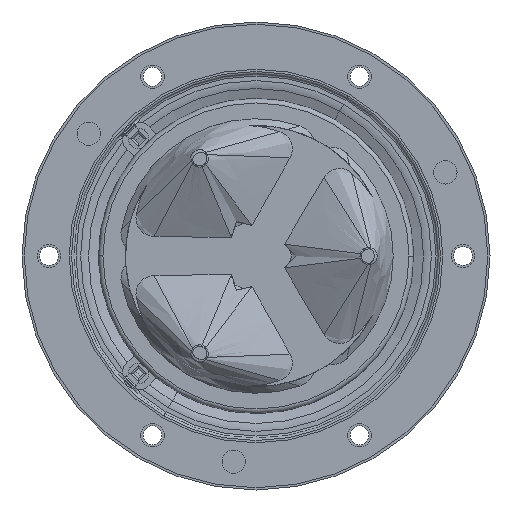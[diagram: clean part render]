
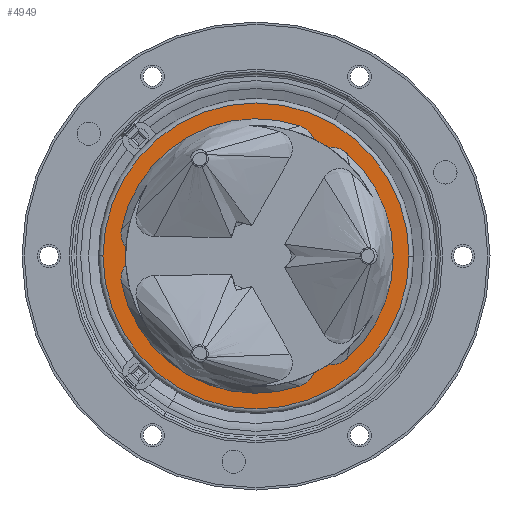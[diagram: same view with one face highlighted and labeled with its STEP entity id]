
A CAD part, front view. The second image highlights one B-rep face of the part: STEP entity #4949.
In plain terms, the highlighted planar face has unit normal (0, -1, 0).
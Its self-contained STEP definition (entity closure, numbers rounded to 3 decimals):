
#6 = VERTEX_POINT ( 'NONE', #21398 ) ;
#58 = AXIS2_PLACEMENT_3D ( 'NONE', #20533, #3980, #16532 ) ;
#72 = ORIENTED_EDGE ( 'NONE', *, *, #5349, .T. ) ;
#1266 = DIRECTION ( 'NONE',  ( 0., 1., 0. ) ) ;
#1338 = DIRECTION ( 'NONE',  ( 0., 0., 1. ) ) ;
#1423 = CARTESIAN_POINT ( 'NONE',  ( 0., -2., 0. ) ) ;
#1545 = CIRCLE ( 'NONE', #2285, 5. ) ;
#1559 = CIRCLE ( 'NONE', #12674, 34. ) ;
#1608 = EDGE_CURVE ( 'NONE', #18646, #15388, #16118, .T. ) ;
#1723 = AXIS2_PLACEMENT_3D ( 'NONE', #4031, #5792, #2302 ) ;
#1738 = CARTESIAN_POINT ( 'NONE',  ( 16.124, -2., 24.104 ) ) ;
#1854 = ORIENTED_EDGE ( 'NONE', *, *, #19162, .T. ) ;
#1913 = ORIENTED_EDGE ( 'NONE', *, *, #5953, .T. ) ;
#2219 = AXIS2_PLACEMENT_3D ( 'NONE', #22016, #13430, #16998 ) ;
#2285 = AXIS2_PLACEMENT_3D ( 'NONE', #18452, #19946, #9304 ) ;
#2302 = DIRECTION ( 'NONE',  ( -0.5, 0., 0.866 ) ) ;
#3135 = ORIENTED_EDGE ( 'NONE', *, *, #13721, .T. ) ;
#3187 = DIRECTION ( 'NONE',  ( 1., 0., 0. ) ) ;
#3816 = AXIS2_PLACEMENT_3D ( 'NONE', #11174, #20075, #20310 ) ;
#3980 = DIRECTION ( 'NONE',  ( 0., 1., 0. ) ) ;
#4031 = CARTESIAN_POINT ( 'NONE',  ( 0., -2., 0. ) ) ;
#4100 = AXIS2_PLACEMENT_3D ( 'NONE', #8011, #20401, #20867 ) ;
#4474 = VERTEX_POINT ( 'NONE', #8824 ) ;
#4540 = DIRECTION ( 'NONE',  ( 1., 0., 0. ) ) ;
#4943 = CIRCLE ( 'NONE', #3816, 34. ) ;
#4949 = ADVANCED_FACE ( 'NONE', ( #10234, #17311 ), #20318, .F. ) ;
#5035 = DIRECTION ( 'NONE',  ( 1., 0., 0. ) ) ;
#5180 = CARTESIAN_POINT ( 'NONE',  ( 0., -2., 0. ) ) ;
#5349 = EDGE_CURVE ( 'NONE', #7021, #7378, #7078, .T. ) ;
#5622 = DIRECTION ( 'NONE',  ( 0., 1., 0. ) ) ;
#5792 = DIRECTION ( 'NONE',  ( 0., 1., 0. ) ) ;
#5827 = CIRCLE ( 'NONE', #13615, 29. ) ;
#5912 = CARTESIAN_POINT ( 'NONE',  ( 16.833, -2., -19.155 ) ) ;
#5953 = EDGE_CURVE ( 'NONE', #14503, #17098, #1545, .T. ) ;
#6295 = EDGE_CURVE ( 'NONE', #22835, #9927, #1559, .T. ) ;
#6444 = CARTESIAN_POINT ( 'NONE',  ( 0., -2., 0. ) ) ;
#6557 = AXIS2_PLACEMENT_3D ( 'NONE', #5912, #7415, #9275 ) ;
#6914 = ORIENTED_EDGE ( 'NONE', *, *, #6295, .T. ) ;
#7021 = VERTEX_POINT ( 'NONE', #18891 ) ;
#7078 = CIRCLE ( 'NONE', #4100, 5. ) ;
#7378 = VERTEX_POINT ( 'NONE', #12290 ) ;
#7415 = DIRECTION ( 'NONE',  ( 0., 1., 0. ) ) ;
#7523 = AXIS2_PLACEMENT_3D ( 'NONE', #21068, #5622, #22957 ) ;
#7760 = CIRCLE ( 'NONE', #16662, 5. ) ;
#7762 = VERTEX_POINT ( 'NONE', #9795 ) ;
#8011 = CARTESIAN_POINT ( 'NONE',  ( -25.005, -2., 5. ) ) ;
#8142 = CARTESIAN_POINT ( 'NONE',  ( 20.133, -2., -22.911 ) ) ;
#8193 = ORIENTED_EDGE ( 'NONE', *, *, #19205, .T. ) ;
#8536 = ORIENTED_EDGE ( 'NONE', *, *, #14116, .T. ) ;
#8704 = ORIENTED_EDGE ( 'NONE', *, *, #1608, .T. ) ;
#8824 = CARTESIAN_POINT ( 'NONE',  ( 20.133, -2., 22.911 ) ) ;
#9275 = DIRECTION ( 'NONE',  ( 1., 0., 0. ) ) ;
#9304 = DIRECTION ( 'NONE',  ( -0.5, 0., 0.866 ) ) ;
#9327 = CARTESIAN_POINT ( 'NONE',  ( -29.908, -2., -5.98 ) ) ;
#9795 = CARTESIAN_POINT ( 'NONE',  ( 16.124, -2., -24.104 ) ) ;
#9927 = VERTEX_POINT ( 'NONE', #19560 ) ;
#10030 = ORIENTED_EDGE ( 'NONE', *, *, #22353, .F. ) ;
#10148 = DIRECTION ( 'NONE',  ( 0., -1., 0. ) ) ;
#10234 = FACE_BOUND ( 'NONE', #10742, .T. ) ;
#10742 = EDGE_LOOP ( 'NONE', ( #21536, #72, #1854, #1913, #10030, #18343, #8536, #8193, #17668, #11061, #22827, #8704 ) ) ;
#11061 = ORIENTED_EDGE ( 'NONE', *, *, #12590, .T. ) ;
#11174 = CARTESIAN_POINT ( 'NONE',  ( 0., -2., 0. ) ) ;
#11438 = DIRECTION ( 'NONE',  ( -0.5, 0., -0.866 ) ) ;
#11495 = AXIS2_PLACEMENT_3D ( 'NONE', #1423, #13281, #4540 ) ;
#11625 = DIRECTION ( 'NONE',  ( 0., -1., 0. ) ) ;
#11727 = CIRCLE ( 'NONE', #1723, 30.5 ) ;
#11775 = AXIS2_PLACEMENT_3D ( 'NONE', #20662, #11625, #13147 ) ;
#11818 = DIRECTION ( 'NONE',  ( 1., 0., 0. ) ) ;
#11871 = CIRCLE ( 'NONE', #2219, 29. ) ;
#12130 = CARTESIAN_POINT ( 'NONE',  ( 16.833, -2., 19.155 ) ) ;
#12290 = CARTESIAN_POINT ( 'NONE',  ( -29.908, -2., 5.98 ) ) ;
#12590 = EDGE_CURVE ( 'NONE', #6, #21277, #20030, .T. ) ;
#12674 = AXIS2_PLACEMENT_3D ( 'NONE', #5180, #14027, #3187 ) ;
#12927 = CARTESIAN_POINT ( 'NONE',  ( -28.937, -2., -1.911 ) ) ;
#13147 = DIRECTION ( 'NONE',  ( 0., 0., 1. ) ) ;
#13275 = EDGE_CURVE ( 'NONE', #21277, #18646, #16780, .T. ) ;
#13281 = DIRECTION ( 'NONE',  ( 0., 1., 0. ) ) ;
#13430 = DIRECTION ( 'NONE',  ( 0., -1., 0. ) ) ;
#13460 = CARTESIAN_POINT ( 'NONE',  ( 0., -2., 0. ) ) ;
#13615 = AXIS2_PLACEMENT_3D ( 'NONE', #6444, #10148, #1338 ) ;
#13721 = EDGE_CURVE ( 'NONE', #9927, #22835, #4943, .T. ) ;
#13767 = DIRECTION ( 'NONE',  ( 0., 1., 0. ) ) ;
#13857 = CARTESIAN_POINT ( 'NONE',  ( 9.775, -2., 28.891 ) ) ;
#13922 = AXIS2_PLACEMENT_3D ( 'NONE', #22005, #18595, #11438 ) ;
#14027 = DIRECTION ( 'NONE',  ( 0., -1., 0. ) ) ;
#14116 = EDGE_CURVE ( 'NONE', #4474, #16925, #22393, .T. ) ;
#14503 = VERTEX_POINT ( 'NONE', #13857 ) ;
#14715 = VERTEX_POINT ( 'NONE', #1738 ) ;
#14879 = CARTESIAN_POINT ( 'NONE',  ( 34., -2., 0. ) ) ;
#15388 = VERTEX_POINT ( 'NONE', #12927 ) ;
#16118 = CIRCLE ( 'NONE', #13922, 5. ) ;
#16532 = DIRECTION ( 'NONE',  ( -0.5, 0., -0.866 ) ) ;
#16662 = AXIS2_PLACEMENT_3D ( 'NONE', #12130, #13767, #5035 ) ;
#16780 = CIRCLE ( 'NONE', #7523, 30.5 ) ;
#16925 = VERTEX_POINT ( 'NONE', #8142 ) ;
#16966 = CARTESIAN_POINT ( 'NONE',  ( 9.775, -2., -28.891 ) ) ;
#16970 = EDGE_CURVE ( 'NONE', #7021, #15388, #17333, .T. ) ;
#16998 = DIRECTION ( 'NONE',  ( 0., 0., 1. ) ) ;
#17098 = VERTEX_POINT ( 'NONE', #21206 ) ;
#17311 = FACE_OUTER_BOUND ( 'NONE', #19890, .T. ) ;
#17333 = CIRCLE ( 'NONE', #11775, 29. ) ;
#17668 = ORIENTED_EDGE ( 'NONE', *, *, #18482, .F. ) ;
#18343 = ORIENTED_EDGE ( 'NONE', *, *, #21053, .T. ) ;
#18452 = CARTESIAN_POINT ( 'NONE',  ( 8.172, -2., 24.155 ) ) ;
#18482 = EDGE_CURVE ( 'NONE', #6, #7762, #5827, .T. ) ;
#18595 = DIRECTION ( 'NONE',  ( 0., 1., 0. ) ) ;
#18646 = VERTEX_POINT ( 'NONE', #9327 ) ;
#18891 = CARTESIAN_POINT ( 'NONE',  ( -28.937, -2., 1.911 ) ) ;
#19162 = EDGE_CURVE ( 'NONE', #7378, #14503, #11727, .T. ) ;
#19205 = EDGE_CURVE ( 'NONE', #16925, #7762, #22517, .T. ) ;
#19560 = CARTESIAN_POINT ( 'NONE',  ( -34., -2., 0. ) ) ;
#19890 = EDGE_LOOP ( 'NONE', ( #6914, #3135 ) ) ;
#19946 = DIRECTION ( 'NONE',  ( 0., 1., 0. ) ) ;
#20030 = CIRCLE ( 'NONE', #58, 5. ) ;
#20075 = DIRECTION ( 'NONE',  ( 0., -1., 0. ) ) ;
#20310 = DIRECTION ( 'NONE',  ( 1., 0., 0. ) ) ;
#20318 = PLANE ( 'NONE',  #11495 ) ;
#20401 = DIRECTION ( 'NONE',  ( 0., 1., 0. ) ) ;
#20533 = CARTESIAN_POINT ( 'NONE',  ( 8.172, -2., -24.155 ) ) ;
#20662 = CARTESIAN_POINT ( 'NONE',  ( 0., -2., 0. ) ) ;
#20867 = DIRECTION ( 'NONE',  ( -0.5, 0., 0.866 ) ) ;
#21053 = EDGE_CURVE ( 'NONE', #14715, #4474, #7760, .T. ) ;
#21068 = CARTESIAN_POINT ( 'NONE',  ( 0., -2., 0. ) ) ;
#21206 = CARTESIAN_POINT ( 'NONE',  ( 12.813, -2., 26.016 ) ) ;
#21277 = VERTEX_POINT ( 'NONE', #16966 ) ;
#21398 = CARTESIAN_POINT ( 'NONE',  ( 12.813, -2., -26.016 ) ) ;
#21536 = ORIENTED_EDGE ( 'NONE', *, *, #16970, .F. ) ;
#21630 = AXIS2_PLACEMENT_3D ( 'NONE', #13460, #1266, #11818 ) ;
#22005 = CARTESIAN_POINT ( 'NONE',  ( -25.005, -2., -5. ) ) ;
#22016 = CARTESIAN_POINT ( 'NONE',  ( 0., -2., 0. ) ) ;
#22353 = EDGE_CURVE ( 'NONE', #14715, #17098, #11871, .T. ) ;
#22393 = CIRCLE ( 'NONE', #21630, 30.5 ) ;
#22517 = CIRCLE ( 'NONE', #6557, 5. ) ;
#22827 = ORIENTED_EDGE ( 'NONE', *, *, #13275, .T. ) ;
#22835 = VERTEX_POINT ( 'NONE', #14879 ) ;
#22957 = DIRECTION ( 'NONE',  ( -0.5, 0., -0.866 ) ) ;
